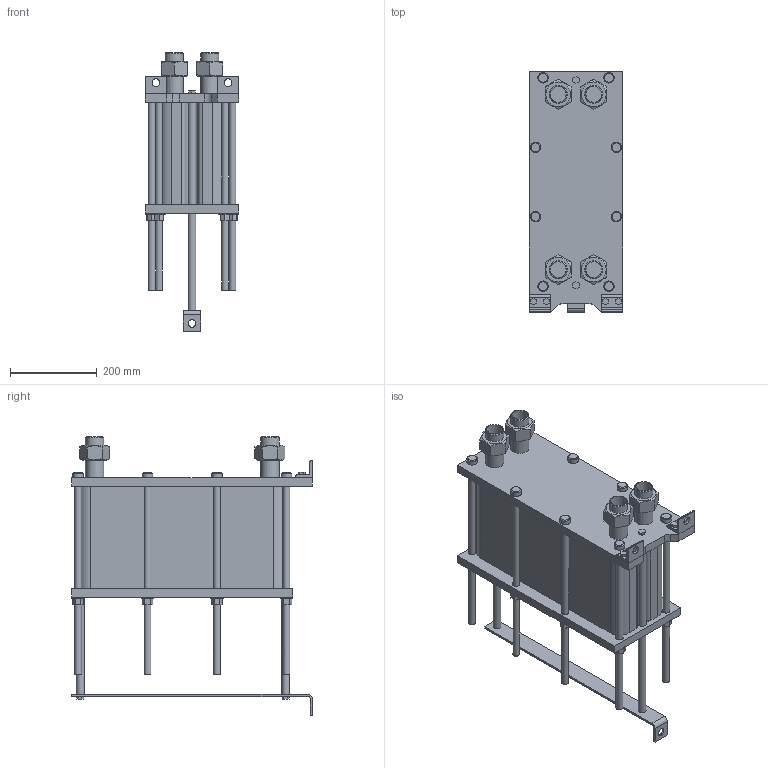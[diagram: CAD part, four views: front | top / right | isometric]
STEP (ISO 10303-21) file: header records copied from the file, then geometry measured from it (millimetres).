
FILE_DESCRIPTION(/* description */ (''),/* implementation_level */ '2;1');
FILE_NAME(/* name */ 'C:\Users\zhuro\Desktop\ENCO\TO\ЭН-004\ЭН-0,5-004-76-1.stp',/* time_stamp */ '2022-06-06T10:49:46+03:00',/* author */ ('zhuro'),/* organization */ (''),/* preprocessor_version */ 'ST-DEVELOPER v18.1',/* originating_system */ 'Autodesk Inventor 2022',/* authorisation */ '');
FILE_SCHEMA (('AUTOMOTIVE_DESIGN { 1 0 10303 214 3 1 1 }'));
Length unit declared in the file: millimetre
Products named in the file (1): ЭН-0,5-004-76-1
Bounding box: 216 x 555 x 641.8 mm (x, y, z)
Volume: 23339375.6 mm3; surface area: 1468947 mm2
Topology: 40 solids, 40 shells, 403 faces, 865 edges, 574 vertices
Faces by surface type: plane 272, cylinder 103, cone 28
Full cylindrical faces by diameter (mm): 10 x4, 16 x16, 18 x29, 20 x2, 24 x8, 28 x8, 36.3 x5, 42.3 x9
Entity records: 11137 total; most frequent: CARTESIAN_POINT 1939, DIRECTION 1879, ORIENTED_EDGE 1730, EDGE_CURVE 865, AXIS2_PLACEMENT_3D 658, VERTEX_POINT 574, LINE 563, VECTOR 563
